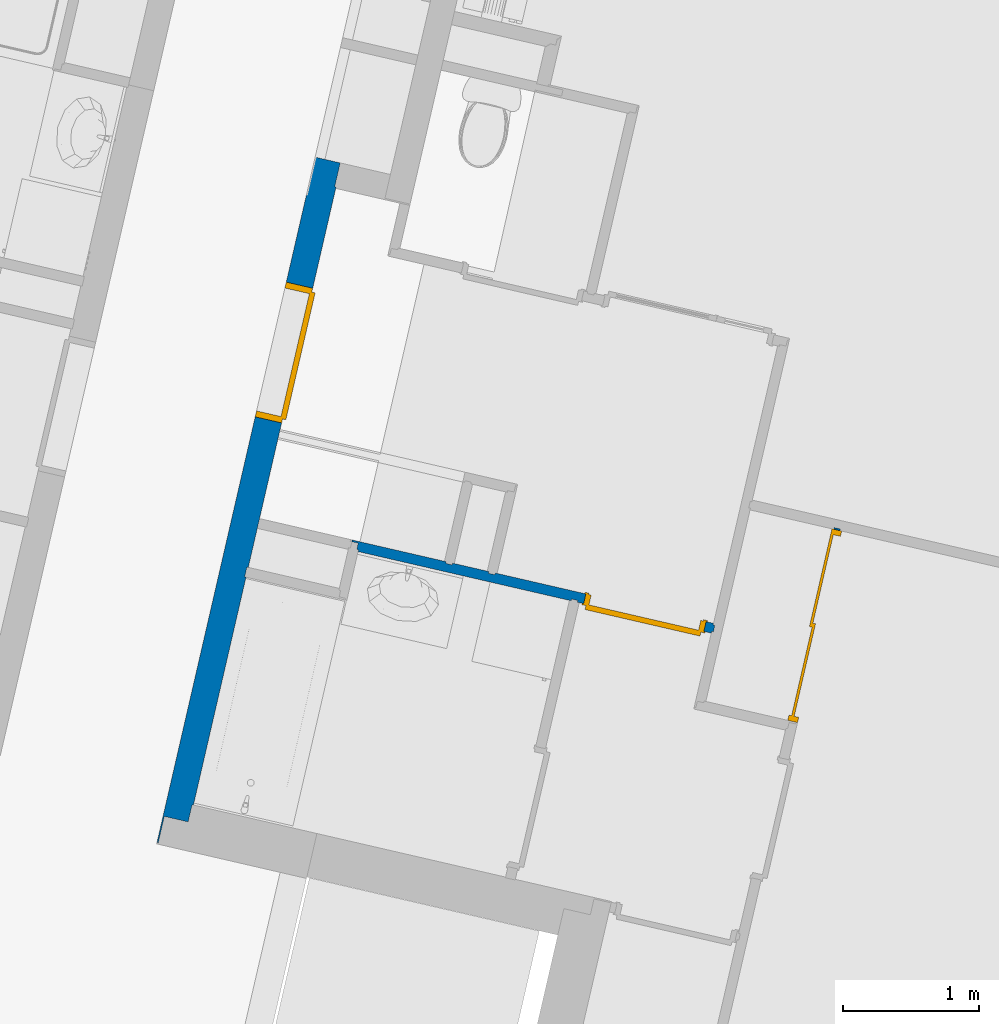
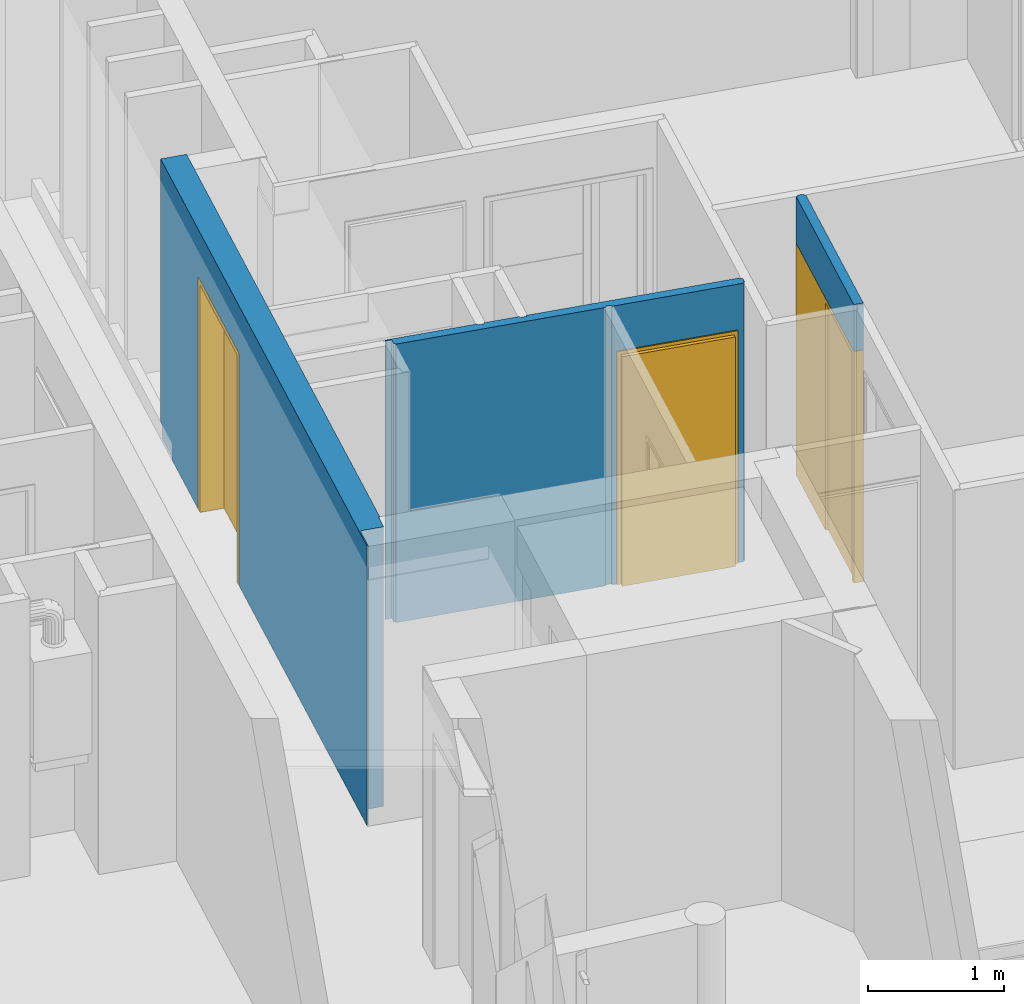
# One storey, part 11 of 62: 3 doors, 3 walls, 3 openings.
"""IFC2X3 building model written with IfcOpenShell, lengths in metres."""

from ifc_helpers import new_model, entity, si_unit, converted_unit, derived_unit, money_unit, direction, frame, origin_with_axes, place, context, subcontext, project, spatial, faceted_brep, source, transform, mapped, material, material_list, type_object, element, fill, save


model = new_model("IFC2X3")

# Units and contexts
model_context = context("Model", 3, precision=1e-05, world=origin_with_axes(), true_north=direction((0.0, 1.0)))
body_context = subcontext(model_context, "Body", "Model", "MODEL_VIEW")
ifc_project = project(units=[si_unit("LENGTHUNIT", "METRE"), si_unit("AREAUNIT", "SQUARE_METRE"), si_unit("VOLUMEUNIT", "CUBIC_METRE"), converted_unit("PLANEANGLEUNIT", "DEGREE", entity("IfcPlaneAngleMeasure", 0.0174532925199), si_unit("PLANEANGLEUNIT", "RADIAN"), dimensions=[0, 0, 0, 0, 0, 0, 0]), si_unit("SOLIDANGLEUNIT", "STERADIAN"), money_unit("EUR"), converted_unit("TIMEUNIT", "Year", entity("IfcTimeMeasure", 31556926.0), si_unit("TIMEUNIT", "SECOND"), dimensions=[0, 0, 1, 0, 0, 0, 0]), si_unit("MASSUNIT", "GRAM", prefix="KILO"), si_unit("THERMODYNAMICTEMPERATUREUNIT", "DEGREE_CELSIUS"), si_unit("LUMINOUSINTENSITYUNIT", "LUMEN"), si_unit("ENERGYUNIT", "JOULE", prefix="MEGA"), derived_unit("THERMALCONDUCTANCEUNIT", [(si_unit("POWERUNIT", "WATT"), 1), (si_unit("LENGTHUNIT", "METRE"), -1), (si_unit("THERMODYNAMICTEMPERATUREUNIT", "KELVIN"), -1)]), derived_unit("SPECIFICHEATCAPACITYUNIT", [(si_unit("ENERGYUNIT", "JOULE"), 1), (si_unit("MASSUNIT", "GRAM", prefix="KILO"), -1), (si_unit("THERMODYNAMICTEMPERATUREUNIT", "KELVIN"), -1)]), derived_unit("MASSDENSITYUNIT", [(si_unit("MASSUNIT", "GRAM", prefix="KILO"), 1), (si_unit("VOLUMEUNIT", "CUBIC_METRE"), -1)])], contexts=[model_context])

# Site, building, storey
site_placement = place(None, origin_with_axes())
site = spatial("IfcSite", under=ifc_project, at=site_placement, Name="Site", CompositionType="ELEMENT")
building_placement = place(site_placement, origin_with_axes())
building = spatial("IfcBuilding", under=site, at=building_placement, Name="Bâtiment", CompositionType="ELEMENT")
storey_placement = place(building_placement, frame((0.0, 0.0, 8.16), z_axis=(0.0, 0.0, 1.0), x_axis=(1.0, 0.0, 0.0)))
storey = spatial("IfcBuildingStorey", under=building, at=storey_placement, Name="R+3", CompositionType="ELEMENT", Elevation=8.16)

# Wall, opening, door
ifc_material_1 = material(Name="Finition int - Plaque de plâtre")
ifc_material_2 = material(Name="Isolation - Laine de roche")
ifc_material_list_1 = material_list([ifc_material_1, ifc_material_2, ifc_material_1])
wall_type_1 = type_object("IfcWallType", Name="3 - Cloison 72mm Placostil 74", PredefinedType="USERDEFINED")
wall_1_placement = place(storey_placement, frame((-6.26516283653, -2.55576610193, 0.0), z_axis=(0.0, 0.0, 1.0), x_axis=(-0.97438734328, 0.224876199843, 0.0)))
wall_1 = element("IfcWall", 1, at=wall_1_placement, inside=storey, type_object=wall_type_1, material=ifc_material_list_1, Name="Cloison Placostil 72/48", ObjectType="PARTITIONING", context=body_context, shape_type="Brep", body=[
    faceted_brep([(0.966469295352, 0.061, 2.08), (0.966469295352, 0.061, 0.0), (1.01300000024, 0.061, 0.0), (1.01300000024, 0.061, 2.5), (0.0, 0.061, 2.5), (0.0, 0.061, 0.0), (0.0564692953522, 0.061, 0.0), (0.0564692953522, 0.061, 2.08), (0.966469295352, 0.074, 2.08), (0.966469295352, 0.074, 0.0), (1.01300000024, 0.074, 0.0), (1.01300000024, 0.074, 2.5), (0.0, 0.074, 2.5), (0.0, 0.074, 0.0), (0.0564692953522, 0.074, 0.0), (0.0564692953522, 0.074, 2.08)], [[[0, 1, 2, 3, 4, 5, 6, 7]], [[1, 0, 8, 9]], [[1, 9, 10, 2]], [[10, 11, 3, 2]], [[11, 12, 4, 3]], [[13, 5, 4, 12]], [[14, 6, 5, 13]], [[7, 6, 14, 15]], [[0, 7, 15, 8]], [[15, 14, 13, 12, 11, 10, 9, 8]]]),
    faceted_brep([(2.67383049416, 0.074, 0.0), (2.67383049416, 0.061, 0.0), (1.06100000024, 0.061, 0.0), (1.06100000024, 0.074, 0.0), (2.67383049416, 0.074, 2.5), (2.67383049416, 0.061, 2.5), (1.06100000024, 0.061, 2.5), (1.06100000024, 0.074, 2.5)], [[[0, 1, 2, 3]], [[1, 0, 4, 5]], [[1, 5, 6, 2]], [[7, 3, 2, 6]], [[4, 0, 3, 7]], [[5, 4, 7, 6]]]),
    faceted_brep([(0.966469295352, 0.013, 2.08), (0.966469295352, 0.013, 0.0), (2.68683049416, 0.013, 0.0), (2.68683049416, 0.013, 2.5), (-0.0130000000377, 0.013, 2.5), (-0.0130000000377, 0.013, 0.0), (0.0564692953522, 0.013, 0.0), (0.0564692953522, 0.013, 2.08), (0.966469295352, 0.061, 2.08), (0.966469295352, 0.061, 0.0), (2.68683049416, 0.061, 0.0), (2.68683049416, 0.061, 2.5), (-0.0130000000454, 0.061, 2.5), (-0.0130000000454, 0.061, 0.0), (0.0564692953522, 0.061, 0.0), (0.0564692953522, 0.061, 2.08)], [[[0, 1, 2, 3, 4, 5, 6, 7]], [[1, 0, 8, 9]], [[1, 9, 10, 2]], [[10, 11, 3, 2]], [[11, 12, 4, 3]], [[13, 5, 4, 12]], [[14, 6, 5, 13]], [[7, 6, 14, 15]], [[0, 7, 15, 8]], [[15, 14, 13, 12, 11, 10, 9, 8]]]),
    faceted_brep([(2.02383049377, 0.013, 0.0), (2.73483049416, 0.013, 0.0), (2.73483049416, 0.0, 0.0), (2.02383049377, 0.0, 0.0), (2.02383049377, 0.013, 2.5), (2.73483049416, 0.013, 2.5), (2.73483049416, 0.0, 2.5), (2.02383049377, 0.0, 2.5)], [[[0, 1, 2, 3]], [[4, 5, 1, 0]], [[6, 2, 1, 5]], [[3, 2, 6, 7]], [[7, 4, 0, 3]], [[7, 6, 5, 4]]]),
    faceted_brep([(1.97583049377, 0.013, 0.0), (1.97583049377, 0.0, 0.0), (1.69983049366, 0.0, 0.0), (1.69983049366, 0.013, 0.0), (1.97583049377, 0.013, 2.5), (1.97583049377, 0.0, 2.5), (1.69983049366, 0.0, 2.5), (1.69983049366, 0.013, 2.5)], [[[0, 1, 2, 3]], [[1, 0, 4, 5]], [[1, 5, 6, 2]], [[7, 3, 2, 6]], [[4, 0, 3, 7]], [[5, 4, 7, 6]]]),
    faceted_brep([(0.966469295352, 0.0, 2.08), (0.966469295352, 0.0, 0.0), (1.65183049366, 0.0, 0.0), (1.65183049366, 0.0, 2.5), (0.0, 0.0, 2.5), (0.0, 0.0, 0.0), (0.0564692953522, 0.0, 0.0), (0.0564692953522, 0.0, 2.08), (0.966469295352, 0.013, 2.08), (0.966469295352, 0.013, 0.0), (1.65183049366, 0.013, 0.0), (1.65183049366, 0.013, 2.5), (0.0, 0.013, 2.5), (0.0, 0.013, 0.0), (0.0564692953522, 0.013, 0.0), (0.0564692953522, 0.013, 2.08)], [[[0, 1, 2, 3, 4, 5, 6, 7]], [[1, 0, 8, 9]], [[1, 9, 10, 2]], [[10, 11, 3, 2]], [[11, 12, 4, 3]], [[13, 5, 4, 12]], [[14, 6, 5, 13]], [[7, 6, 14, 15]], [[0, 7, 15, 8]], [[15, 14, 13, 12, 11, 10, 9, 8]]]),
])
opening_1_placement = place(wall_1_placement, frame((0.511469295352, 0.0, 0.0), z_axis=(0.0, 0.0, 1.0), x_axis=(1.0, 0.0, 0.0)))
opening_1 = element("IfcOpeningElement", 2, at=opening_1_placement, cuts=wall_1, Name="Porte 83x204 bois alvéolaire", context=body_context, shape_type="Brep", body=[
    faceted_brep([(0.455, -0.074, 0.0), (-0.455, -0.074, 0.0), (-0.455, 0.074, 0.0), (0.455, 0.074, 0.0), (0.455, -0.074, 2.08), (-0.455, -0.074, 2.08), (-0.455, 0.074, 2.08), (0.455, 0.074, 2.08)], [[[0, 1, 2, 3]], [[0, 4, 5, 1]], [[1, 5, 6, 2]], [[3, 2, 6, 7]], [[4, 0, 3, 7]], [[5, 4, 7, 6]]]),
])
door_style_1 = type_object("IfcDoorStyle", Name="Porte int générique 2019", ConstructionType="NOTDEFINED", OperationType="SINGLE_SWING_RIGHT", ParameterTakesPrecedence=False, Sizeable=False)
shared_shape_1 = source(origin_with_axes(), body_context, "Body", "Brep", [
    faceted_brep([(0.455, -0.006, 0.0), (0.415, -0.006, 0.0), (0.415, -0.006, 2.04), (-0.415, -0.006, 2.04), (-0.415, -0.006, 0.0), (-0.455, -0.006, 0.0), (-0.455, -0.006, 2.08), (0.455, -0.006, 2.08), (0.455, -0.08, 0.0), (0.415, -0.08, 0.0), (0.415, -0.08, 2.04), (-0.415, -0.08, 2.04), (-0.415, -0.08, 0.0), (-0.455, -0.08, 0.0), (-0.455, -0.08, 2.08), (0.455, -0.08, 2.08)], [[[0, 1, 2, 3, 4, 5, 6, 7]], [[0, 8, 9, 1]], [[1, 9, 10, 2]], [[2, 10, 11, 3]], [[3, 11, 12, 4]], [[5, 4, 12, 13]], [[14, 6, 5, 13]], [[15, 7, 6, 14]], [[8, 0, 7, 15]], [[9, 8, 15, 14, 13, 12, 11, 10]]]),
    faceted_brep([(0.465, -0.006, 0.0), (0.465, 0.004, 0.0), (0.465, 0.004, 2.09), (0.465, -0.006, 2.09), (0.435, -0.006, 0.0), (0.435, 0.004, 0.0), (0.435, 0.004, 2.06), (-0.435, 0.004, 2.06), (-0.435, 0.004, 0.0), (-0.465, 0.004, 0.0), (-0.465, 0.004, 2.09), (-0.465, -0.006, 2.09), (-0.465, -0.006, 0.0), (-0.435, -0.006, 0.0), (-0.435, -0.006, 2.06), (0.435, -0.006, 2.06)], [[[0, 1, 2, 3]], [[0, 4, 5, 1]], [[1, 5, 6, 7, 8, 9, 10, 2]], [[3, 2, 10, 11]], [[4, 0, 3, 11, 12, 13, 14, 15]], [[5, 4, 15, 6]], [[6, 15, 14, 7]], [[7, 14, 13, 8]], [[12, 9, 8, 13]], [[11, 10, 9, 12]]]),
    faceted_brep([(0.465, -0.09, 0.0), (0.465, -0.08, 0.0), (0.465, -0.08, 2.09), (0.465, -0.09, 2.09), (0.435, -0.09, 0.0), (0.435, -0.08, 0.0), (0.435, -0.08, 2.06), (-0.435, -0.08, 2.06), (-0.435, -0.08, 0.0), (-0.465, -0.08, 0.0), (-0.465, -0.08, 2.09), (-0.465, -0.09, 2.09), (-0.465, -0.09, 0.0), (-0.435, -0.09, 0.0), (-0.435, -0.09, 2.06), (0.435, -0.09, 2.06)], [[[0, 1, 2, 3]], [[0, 4, 5, 1]], [[1, 5, 6, 7, 8, 9, 10, 2]], [[3, 2, 10, 11]], [[4, 0, 3, 11, 12, 13, 14, 15]], [[5, 4, 15, 6]], [[6, 15, 14, 7]], [[7, 14, 13, 8]], [[12, 9, 8, 13]], [[11, 10, 9, 12]]]),
    faceted_brep([(0.435, 0.034, 0.0), (0.435, -0.006, 0.0), (-0.435, -0.006, 0.0), (-0.435, 0.034, 0.0), (0.435, 0.034, 2.06), (0.435, -0.006, 2.06), (-0.435, -0.006, 2.06), (-0.435, 0.034, 2.06)], [[[0, 1, 2, 3]], [[4, 5, 1, 0]], [[1, 5, 6, 2]], [[3, 2, 6, 7]], [[0, 3, 7, 4]], [[7, 6, 5, 4]]]),
])
door_1_placement = place(opening_1_placement, frame((-0.415, 0.0, 0.0), z_axis=(0.0, 0.0, 1.0), x_axis=(1.0, 0.0, 0.0)))
door_1 = element("IfcDoor", 3, at=door_1_placement, inside=storey, type_object=door_style_1, Name="Porte 83x204 bois alvéolaire", ObjectType="DOOR", OverallHeight=2.04, OverallWidth=0.83, context=body_context, shape_type="MappedRepresentation", body=[
    mapped(shared_shape_1, transform((0.415, 0.08, 0.0))),
])
fill(opening_1, door_1)

wall_2_placement = place(storey_placement, frame((-5.6459122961, -3.28776935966, 0.0), z_axis=(0.0, 0.0, 1.0), x_axis=(0.224876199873, 0.974387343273, 0.0)))
wall_2 = element("IfcWall", 4, at=wall_2_placement, inside=storey, type_object=wall_type_1, material=ifc_material_list_1, Name="Cloison Placostil 72/48", ObjectType="PARTITIONING", context=body_context, shape_type="Brep", body=[
    faceted_brep([(0.0, 0.061, 2.08), (1.45000000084, 0.061, 2.08), (1.45000000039, 0.061, 2.5), (0.0, 0.061, 2.5), (1.45000000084, 0.074, 2.08), (0.0, 0.074, 2.08), (1.4500000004, 0.074, 2.5), (0.0, 0.074, 2.5)], [[[0, 1, 2, 3]], [[4, 1, 0, 5]], [[1, 4, 6, 2]], [[6, 7, 3, 2]], [[5, 0, 3, 7]], [[4, 5, 7, 6]]]),
    faceted_brep([(1.45000000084, 0.013, 2.08), (1.45000000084, 0.013, 0.0), (1.46300000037, 0.013, 0.0), (1.46300000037, 0.013, 2.5), (0.0, 0.013, 2.5), (0.0, 0.013, 2.08), (1.45000000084, 0.061, 2.08), (1.45000000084, 0.061, 0.0), (1.46300000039, 0.061, 0.0), (1.46300000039, 0.061, 2.5), (0.0, 0.061, 2.5), (0.0, 0.061, 2.08)], [[[0, 1, 2, 3, 4, 5]], [[1, 0, 6, 7]], [[1, 7, 8, 2]], [[8, 9, 3, 2]], [[9, 10, 4, 3]], [[11, 5, 4, 10]], [[0, 5, 11, 6]], [[6, 11, 10, 9, 8, 7]]]),
    faceted_brep([(0.0, 0.0, 2.08), (1.45000000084, 0.0, 2.08), (1.45000000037, 0.0, 2.5), (0.0, 0.0, 2.5), (1.45000000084, 0.013, 2.08), (0.0, 0.013, 2.08), (1.45000000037, 0.013, 2.5), (0.0, 0.013, 2.5)], [[[0, 1, 2, 3]], [[4, 1, 0, 5]], [[1, 4, 6, 2]], [[6, 7, 3, 2]], [[5, 0, 3, 7]], [[4, 5, 7, 6]]]),
])
opening_2_placement = place(wall_2_placement, frame((0.72500000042, 0.0, 0.0), z_axis=(0.0, 0.0, 1.0), x_axis=(1.0, 0.0, 0.0)))
opening_2 = element("IfcOpeningElement", 5, at=opening_2_placement, cuts=wall_2, Name="Por-002", context=body_context, shape_type="Brep", body=[
    faceted_brep([(0.72500000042, -0.074, 0.0), (-0.72500000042, -0.074, 0.0), (-0.72500000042, 0.074, 0.0), (0.72500000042, 0.074, 0.0), (0.72500000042, -0.074, 2.08), (-0.72500000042, -0.074, 2.08), (-0.72500000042, 0.074, 2.08), (0.72500000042, 0.074, 2.08)], [[[0, 1, 2, 3]], [[0, 4, 5, 1]], [[1, 5, 6, 2]], [[3, 2, 6, 7]], [[4, 0, 3, 7]], [[5, 4, 7, 6]]]),
])
door_style_2 = type_object("IfcDoorStyle", Name="Porte int générique 2019", ConstructionType="NOTDEFINED", OperationType="USERDEFINED", ParameterTakesPrecedence=False, Sizeable=False)
shared_shape_2 = source(origin_with_axes(), body_context, "Body", "Brep", [
    faceted_brep([(0.72500000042, -0.006, 0.0), (0.68500000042, -0.006, 0.0), (0.68500000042, -0.006, 2.04), (-0.68500000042, -0.006, 2.04), (-0.68500000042, -0.006, 0.0), (-0.72500000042, -0.006, 0.0), (-0.72500000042, -0.006, 2.08), (0.72500000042, -0.006, 2.08), (0.72500000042, -0.08, 0.0), (0.68500000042, -0.08, 0.0), (0.68500000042, -0.08, 2.04), (-0.68500000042, -0.08, 2.04), (-0.68500000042, -0.08, 0.0), (-0.72500000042, -0.08, 0.0), (-0.72500000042, -0.08, 2.08), (0.72500000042, -0.08, 2.08)], [[[0, 1, 2, 3, 4, 5, 6, 7]], [[0, 8, 9, 1]], [[1, 9, 10, 2]], [[2, 10, 11, 3]], [[3, 11, 12, 4]], [[5, 4, 12, 13]], [[14, 6, 5, 13]], [[15, 7, 6, 14]], [[8, 0, 7, 15]], [[9, 8, 15, 14, 13, 12, 11, 10]]]),
    faceted_brep([(0.68500000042, -0.006, 0.0), (0.68500000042, -0.026, 0.0), (-0.015, -0.026, 0.0), (-0.015, -0.006, 0.0), (0.68500000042, -0.006, 2.04), (0.68500000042, -0.026, 2.04), (-0.015, -0.026, 2.04), (-0.015, -0.006, 2.04)], [[[0, 1, 2, 3]], [[4, 5, 1, 0]], [[1, 5, 6, 2]], [[3, 2, 6, 7]], [[0, 3, 7, 4]], [[7, 6, 5, 4]]]),
    faceted_brep([(0.015, -0.026, 0.0), (0.015, -0.046, 0.0), (-0.68500000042, -0.046, 0.0), (-0.68500000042, -0.026, 0.0), (0.015, -0.026, 2.04), (0.015, -0.046, 2.04), (-0.68500000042, -0.046, 2.04), (-0.68500000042, -0.026, 2.04)], [[[0, 1, 2, 3]], [[4, 5, 1, 0]], [[1, 5, 6, 2]], [[3, 2, 6, 7]], [[0, 3, 7, 4]], [[7, 6, 5, 4]]]),
])
door_2_placement = place(opening_2_placement, frame((-0.68500000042, 0.0, 0.0), z_axis=(0.0, 0.0, 1.0), x_axis=(1.0, 0.0, 0.0)))
door_2 = element("IfcDoor", 6, at=door_2_placement, inside=storey, type_object=door_style_2, Name="Por-002", ObjectType="DOOR", OverallHeight=2.04, OverallWidth=1.37, context=body_context, shape_type="MappedRepresentation", body=[
    mapped(shared_shape_2, transform((0.68500000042, 0.08, 0.0))),
])
fill(opening_2, door_2)

ifc_material_3 = material(Name="Finition int - Enduit plâtre")
ifc_material_4 = material(Name="Béton")
ifc_material_list_2 = material_list([ifc_material_3, ifc_material_4, ifc_material_3])
wall_type_2 = type_object("IfcWallType", Name="2 - Murs Béton 18 + Enduit 2 Faces 200", PredefinedType="USERDEFINED")
wall_3_placement = place(storey_placement, frame((-9.20392746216, 0.883172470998, 0.0), z_axis=(0.0, 0.0, 1.0), x_axis=(-0.224876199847, -0.974387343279, 0.0)))
wall_3 = element("IfcWall", 7, at=wall_3_placement, inside=storey, type_object=wall_type_2, material=ifc_material_list_2, Name="M_Ext-008", ObjectType="SOLIDWALL", context=body_context, shape_type="Brep", body=[
    faceted_brep([(1.96600000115, 0.2, 0.0), (1.96600000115, 0.2, 2.085), (0.946000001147, 0.2, 2.085), (0.946000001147, 0.2, 0.0), (0.179999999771, 0.2, 0.0), (0.179999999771, 0.2, 2.5), (-2.29100294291e-10, 0.2, 2.5), (0.0, 0.2, 2.51), (4.85855221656, 0.2, 2.51), (4.85855221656, 0.2, 0.0), (3.13355221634, 0.2, 0.0), (3.13355221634, 0.2, 2.5), (3.05955221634, 0.2, 2.5), (3.05955221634, 0.2, 0.0), (1.96600000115, 0.19, 0.0), (1.96600000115, 0.19, 2.085), (0.946000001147, 0.19, 2.085), (0.946000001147, 0.19, 0.0), (0.179999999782, 0.19, 0.0), (0.179999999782, 0.19, 2.5), (-2.17644569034e-10, 0.19, 2.5), (0.0, 0.19, 2.51), (4.85855221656, 0.19, 2.51), (4.85855221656, 0.19, 0.0), (3.13355221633, 0.19, 0.0), (3.13355221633, 0.19, 2.5), (3.05955221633, 0.19, 2.5), (3.05955221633, 0.19, 0.0)], [[[0, 1, 2, 3, 4, 5, 6, 7, 8, 9, 10, 11, 12, 13]], [[1, 0, 14, 15]], [[2, 1, 15, 16]], [[3, 2, 16, 17]], [[3, 17, 18, 4]], [[4, 18, 19, 5]], [[20, 6, 5, 19]], [[6, 20, 21, 7]], [[8, 7, 21, 22]], [[9, 8, 22, 23]], [[24, 10, 9, 23]], [[11, 10, 24, 25]], [[12, 11, 25, 26]], [[13, 12, 26, 27]], [[14, 0, 13, 27]], [[15, 14, 27, 26, 25, 24, 23, 22, 21, 20, 19, 18, 17, 16]]]),
    faceted_brep([(1.96600000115, 0.19, 0.0), (1.96600000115, 0.19, 2.085), (0.946000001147, 0.19, 2.085), (0.946000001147, 0.19, 0.0), (-2.17645235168e-10, 0.19, 0.0), (-2.17645235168e-10, 0.19, 0.150000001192), (-2.17645235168e-10, 0.19, 2.5), (0.0, 0.19, 2.51), (4.98855221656, 0.19, 2.51), (4.98855221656, 0.19, 0.0), (1.96600000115, 0.01, 0.0), (1.96600000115, 0.01, 2.085), (0.946000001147, 0.01, 2.085), (0.946000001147, 0.01, 0.0), (0.0, 0.01, 0.0), (0.0, 0.01, 0.150000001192), (0.0, 0.01, 2.5), (0.0, 0.01, 2.51), (4.98855221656, 0.01, 2.51), (4.98855221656, 0.01, 0.0)], [[[0, 1, 2, 3, 4, 5, 6, 7, 8, 9]], [[1, 0, 10, 11]], [[2, 1, 11, 12]], [[3, 2, 12, 13]], [[3, 13, 14, 4]], [[14, 15, 5, 4]], [[6, 5, 15, 16]], [[7, 6, 16, 17]], [[8, 7, 17, 18]], [[9, 8, 18, 19]], [[10, 0, 9, 19]], [[11, 10, 19, 18, 17, 16, 15, 14, 13, 12]]]),
    faceted_brep([(1.96600000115, 0.01, 0.0), (1.96600000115, 0.01, 2.085), (0.946000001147, 0.01, 2.085), (0.946000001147, 0.01, 0.0), (0.29, 0.01, 0.0), (0.29, 0.01, 0.15), (0.0, 0.01, 0.15), (0.0, 0.01, 2.5), (0.0, 0.01, 2.51), (5.18855221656, 0.01, 2.51), (5.18855221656, 0.01, 0.0), (1.96600000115, -4.24194013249e-10, 0.0), (1.96600000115, -6.41472652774e-10, 2.085), (0.946000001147, -6.41474429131e-10, 2.085), (0.946000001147, -5.58459944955e-10, 0.0), (0.29, -6.44810427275e-10, 0.0), (0.29, -6.44810427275e-10, 0.15), (0.0, -6.41474429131e-10, 0.15), (0.0, 0.0, 2.5), (0.0, 0.0, 2.51), (5.18855221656, 0.0, 2.51), (5.18855221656, 0.0, 0.0)], [[[0, 1, 2, 3, 4, 5, 6, 7, 8, 9, 10]], [[1, 0, 11, 12]], [[2, 1, 12, 13]], [[3, 2, 13, 14]], [[3, 14, 15, 4]], [[5, 4, 15, 16]], [[17, 6, 5, 16]], [[6, 17, 18, 7]], [[8, 7, 18, 19]], [[9, 8, 19, 20]], [[10, 9, 20, 21]], [[11, 0, 10, 21]], [[12, 11, 21, 20, 19, 18, 17, 16, 15, 14, 13]]]),
])
opening_3_placement = place(wall_3_placement, frame((1.45600000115, 0.0, 0.0), z_axis=(0.0, 0.0, 1.0), x_axis=(1.0, 0.0, 0.0)))
opening_3 = element("IfcOpeningElement", 8, at=opening_3_placement, cuts=wall_3, Name="Porte 93x204 bois blindée", context=body_context, shape_type="Brep", body=[
    faceted_brep([(0.51, -0.2, 0.0), (-0.51, -0.2, 0.0), (-0.51, 0.2, 0.0), (0.51, 0.2, 0.0), (0.51, -0.2, 2.085), (-0.51, -0.2, 2.085), (-0.51, 0.2, 2.085), (0.51, 0.2, 2.085)], [[[0, 1, 2, 3]], [[0, 4, 5, 1]], [[1, 5, 6, 2]], [[3, 2, 6, 7]], [[4, 0, 3, 7]], [[5, 4, 7, 6]]]),
])
door_style_3 = type_object("IfcDoorStyle", Name="Porte int générique 2019", ConstructionType="NOTDEFINED", OperationType="SINGLE_SWING_RIGHT", ParameterTakesPrecedence=False, Sizeable=False)
shared_shape_3 = source(origin_with_axes(), body_context, "Body", "Brep", [
    faceted_brep([(0.51, 0.0, 0.0), (0.48, 0.0, 0.0), (0.48, 0.0, 2.055), (-0.48, 0.0, 2.055), (-0.48, 0.0, 0.0), (-0.51, 0.0, 0.0), (-0.51, 0.0, 2.085), (0.51, 0.0, 2.085), (0.51, -0.2, 0.0), (0.465, -0.2, 0.0), (0.465, -0.015, 0.0), (0.48, -0.015, 0.0), (0.48, -0.015, 2.055), (-0.48, -0.015, 2.055), (-0.48, -0.015, 0.0), (-0.465, -0.015, 0.0), (-0.465, -0.2, 0.0), (-0.51, -0.2, 0.0), (-0.51, -0.2, 2.085), (0.51, -0.2, 2.085), (-0.465, -0.2, 2.04), (0.465, -0.2, 2.04), (0.465, -0.015, 2.04), (-0.465, -0.015, 2.04)], [[[0, 1, 2, 3, 4, 5, 6, 7]], [[0, 8, 9, 10, 11, 1]], [[1, 11, 12, 2]], [[2, 12, 13, 3]], [[3, 13, 14, 4]], [[5, 4, 14, 15, 16, 17]], [[18, 6, 5, 17]], [[19, 7, 6, 18]], [[8, 0, 7, 19]], [[9, 8, 19, 18, 17, 16, 20, 21]], [[10, 9, 21, 22]], [[11, 10, 22, 23, 15, 14, 13, 12]], [[23, 20, 16, 15]], [[22, 21, 20, 23]]]),
    faceted_brep([(0.48, 0.025, 0.0), (0.48, -0.015, 0.0), (-0.48, -0.015, 0.0), (-0.48, 0.025, 0.0), (0.48, 0.025, 2.055), (0.48, -0.015, 2.055), (-0.48, -0.015, 2.055), (-0.48, 0.025, 2.055)], [[[0, 1, 2, 3]], [[4, 5, 1, 0]], [[1, 5, 6, 2]], [[3, 2, 6, 7]], [[0, 3, 7, 4]], [[7, 6, 5, 4]]]),
])
door_3_placement = place(opening_3_placement, frame((-0.465, 0.0, 0.0), z_axis=(0.0, 0.0, 1.0), x_axis=(1.0, 0.0, 0.0)))
door_3 = element("IfcDoor", 9, at=door_3_placement, inside=storey, type_object=door_style_3, Name="Porte 93x204 bois blindée", ObjectType="DOOR", OverallHeight=2.04, OverallWidth=0.93, context=body_context, shape_type="MappedRepresentation", body=[
    mapped(shared_shape_3, transform((0.465, 0.2, 0.0))),
])
fill(opening_3, door_3)

save(model, "model.ifc")
